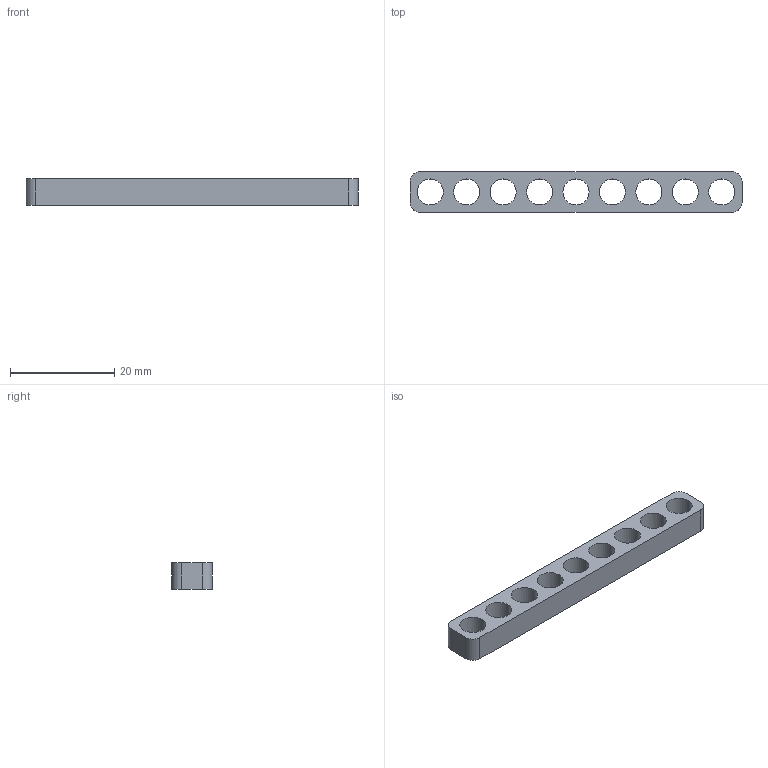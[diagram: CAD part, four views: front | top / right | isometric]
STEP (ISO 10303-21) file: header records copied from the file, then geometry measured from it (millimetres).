
FILE_DESCRIPTION(('CATIA V5 STEP Exchange','CAx-IF Rec.Pracs.--- Model Styling and Organization---1.4--- 2014-01-23'),'2;1');
FILE_NAME('D:\모델\플래그\플래그\일반\02.stp','2026-07-14T16:01:27+00:00',('none'),('none'),'CATIA Version 5-6 Release 2018','CATIA V5 STEP AP214','none');
FILE_SCHEMA(('AUTOMOTIVE_DESIGN { 1 0 10303 214 1 1 1 1 }'));
Length unit declared in the file: millimetre
Products named in the file (1): bulkhead11
Bounding box: 63.78 x 7.8 x 5 mm (x, y, z)
Volume: 1588.4 mm3; surface area: 2041.7 mm2
Topology: 1 solids, 1 shells, 28 faces, 78 edges, 52 vertices
Faces by surface type: cylinder 22, plane 6
Entity records: 911 total; most frequent: ORIENTED_EDGE 156, CARTESIAN_POINT 150, DIRECTION 116, EDGE_CURVE 78, AXIS2_PLACEMENT_3D 64, VERTEX_POINT 52, EDGE_LOOP 46, CIRCLE 44
